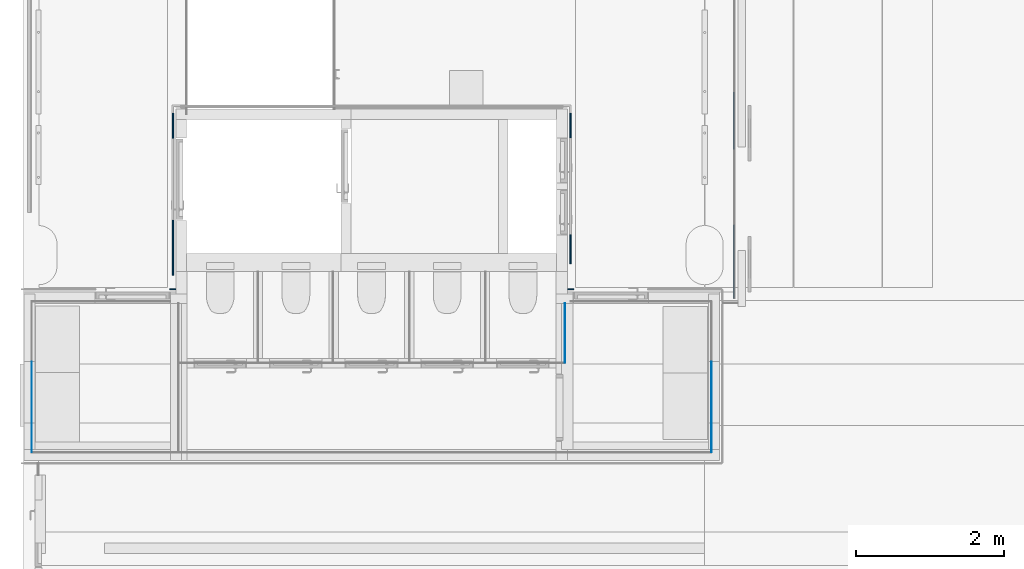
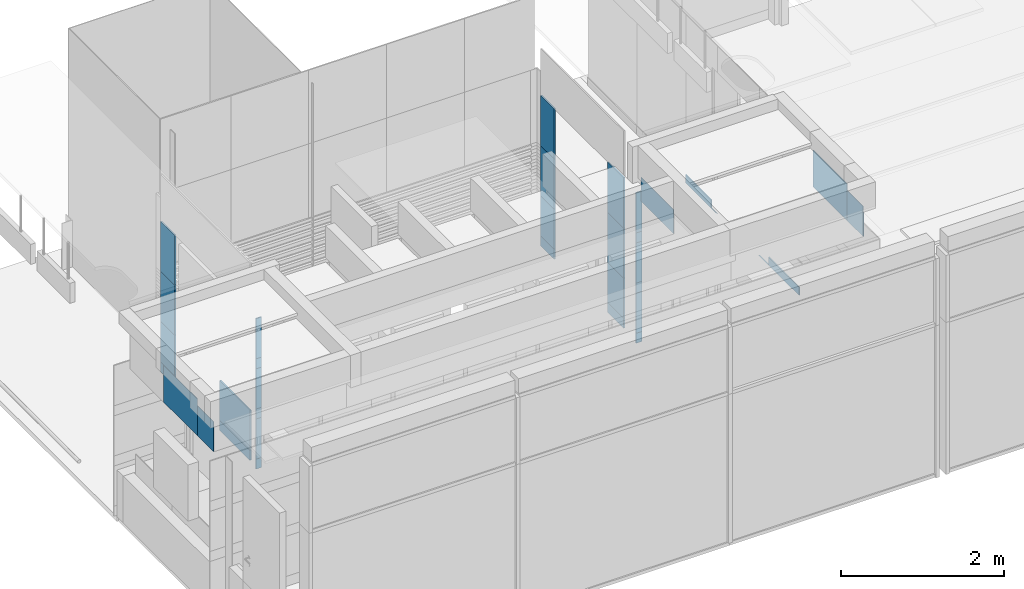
# One storey, part 13 of 26: 33 plates, 10 elements without a shape of their own.
"""IFC2X3 building model written with IfcOpenShell, lengths in millimetres."""

from ifc_helpers import new_model, entity, si_unit, converted_unit, derived_unit, direction, frame, frame_2d, origin, origin_with_axes, origin_2d_with_axis, place, context, subcontext, project, spatial, polyline, rectangle, outline, extrude, source, transform, mapped, material, type_object, element, aggregate, save


model = new_model("IFC2X3")

# Units and contexts
model_context = context("Model", 3, precision=0.01, world=frame((0.0, 4.29681676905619e-09, 0.0)), true_north=direction((4.01073788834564e-13, 1.0)))
plan_context = context("Plan", 3, precision=0.01, world=frame((0.0, 4.29681676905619e-09, 0.0)), true_north=direction((4.01073788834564e-13, 1.0)))
body_context = subcontext(model_context, "Body", "Model", "MODEL_VIEW")
ifc_project = project(units=[converted_unit("PLANEANGLEUNIT", "DEGREE", entity("IfcPositiveLengthMeasure", 0.0174532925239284), si_unit("PLANEANGLEUNIT", "RADIAN"), dimensions=[0, 0, 0, 0, 0, 0, 0]), si_unit("AREAUNIT", "SQUARE_METRE"), si_unit("LENGTHUNIT", "METRE", prefix="MILLI"), si_unit("MASSUNIT", "GRAM", prefix="KILO"), si_unit("POWERUNIT", "WATT"), si_unit("PRESSUREUNIT", "PASCAL", prefix="KILO"), si_unit("FORCEUNIT", "NEWTON", prefix="KILO"), si_unit("ELECTRICVOLTAGEUNIT", "VOLT"), si_unit("ELECTRICCURRENTUNIT", "AMPERE"), si_unit("THERMODYNAMICTEMPERATUREUNIT", "DEGREE_CELSIUS"), si_unit("TIMEUNIT", "SECOND"), si_unit("VOLUMEUNIT", "CUBIC_METRE"), derived_unit("LINEARVELOCITYUNIT", [(si_unit("LENGTHUNIT", "METRE"), 1), (si_unit("TIMEUNIT", "SECOND"), -1)]), derived_unit("VOLUMETRICFLOWRATEUNIT", [(si_unit("VOLUMEUNIT", "CUBIC_METRE"), 1), (si_unit("TIMEUNIT", "SECOND"), -1)]), derived_unit("THERMALTRANSMITTANCEUNIT", [(si_unit("POWERUNIT", "WATT"), 1), (si_unit("THERMODYNAMICTEMPERATUREUNIT", "KELVIN"), -1), (si_unit("AREAUNIT", "SQUARE_METRE"), -1)]), derived_unit("SOUNDPRESSUREUNIT", [(si_unit("PRESSUREUNIT", "PASCAL"), 1)])], contexts=[model_context, plan_context])

# Site, building, storey
site_placement = place(None, origin_with_axes())
site = spatial("IfcSite", under=ifc_project, at=site_placement, Name="ENGM", CompositionType="ELEMENT")
building_placement = place(site_placement, origin_with_axes())
building = spatial("IfcBuilding", under=site, at=building_placement, Name="TG", CompositionType="ELEMENT")
storey_placement = place(building_placement, frame((0.0, 0.0, 210200.0), z_axis=(0.0, 0.0, 1.0), x_axis=(1.0, 0.0, 0.0)))
storey = spatial("IfcBuildingStorey", under=building, at=storey_placement, Name="Nivå F - 0,7 m", CompositionType="ELEMENT", Elevation=210200.0)

# Curtain wall, plates
curtain_wall_type_1 = type_object("IfcCurtainWallType", Name="Curtain Wall:A245 - BIM av T1 - IMK 20mm - Offset 30mm", PredefinedType="NOTDEFINED")
curtain_wall_1_placement = place(storey_placement, frame((0.0, 0.0, -210200.0), z_axis=(0.0, 0.0, 1.0), x_axis=(1.0, 0.0, 0.0)))
curtain_wall_1 = element("IfcCurtainWall", 1, at=curtain_wall_1_placement, inside=storey, type_object=curtain_wall_type_1, Name="Curtain Wall:A245 - BIM av T1 - IMK 20mm - Offset 30mm", ObjectType="Curtain Wall:A245 - BIM av T1 - IMK 20mm - Offset 30mm")
ifc_material_1 = material(Name="Metal - Steel")
plate_type_1 = type_object("IfcPlateType", Name="System Panel:A245 - Metallkasett Inv.20mm - Offset 30mm", PredefinedType="CURTAIN_PANEL", material=ifc_material_1)
shared_shape_1 = source(origin(), body_context, "Body", "SweptSolid", [
    extrude(rectangle(XDim=20.0, YDim=389.600000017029, at=frame_2d((-1.77635683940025e-15, 0.0), x_axis=(1.0, 0.0))), frame((0.0, -40.0, 0.0), z_axis=(0.0, 0.0, 1.0), x_axis=(0.0, 1.0, 0.0)), (0.0, 0.0, 1.0), 150.000000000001),
])
plate_1_placement = place(curtain_wall_1_placement, frame((329145.000000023, 462779.799999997, 210200.0), z_axis=(0.0, 0.0, 1.0), x_axis=(0.0, 1.0, 0.0)))
plate_1 = element("IfcPlate", 2, at=plate_1_placement, type_object=plate_type_1, material=ifc_material_1, Name="System Panel:A245 - Metallkasett Inv.20mm - Offset 30mm", ObjectType="System Panel:A245 - Metallkasett Inv.20mm - Offset 30mm", context=body_context, shape_type="MappedRepresentation", body=[
    mapped(shared_shape_1, transform((0.0, 0.0, 0.0), scale=1.0)),
])
plate_type_2 = type_object("IfcPlateType", Name="System Panel:A245 - Metallkasett Inv.20mm - Offset 30mm", PredefinedType="CURTAIN_PANEL", material=ifc_material_1)
shared_shape_2 = source(origin(), body_context, "Body", "SweptSolid", [
    extrude(rectangle(XDim=20.0, YDim=332.672716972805, at=frame_2d((3.5527136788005e-15, 0.0), x_axis=(1.0, 0.0))), frame((0.0, -40.0, 0.0), z_axis=(0.0, 0.0, 1.0), x_axis=(0.0, 1.0, 0.0)), (0.0, 0.0, 1.0), 150.000000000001),
])
plate_2_placement = place(curtain_wall_1_placement, frame((329145.000000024, 464450.93635849, 210200.0), z_axis=(0.0, 0.0, 1.0), x_axis=(0.0, 1.0, 0.0)))
plate_2 = element("IfcPlate", 3, at=plate_2_placement, type_object=plate_type_2, material=ifc_material_1, Name="System Panel:A245 - Metallkasett Inv.20mm - Offset 30mm", ObjectType="System Panel:A245 - Metallkasett Inv.20mm - Offset 30mm", context=body_context, shape_type="MappedRepresentation", body=[
    mapped(shared_shape_2, transform((0.0, 0.0, 0.0), scale=1.0)),
])
ifc_material_2 = material(Name="Metal - Preget plate")
plate_type_3 = type_object("IfcPlateType", Name="System Panel:U245 - Metallkasett Inv. - 20 mm - Offset 30 mm", PredefinedType="CURTAIN_PANEL", material=ifc_material_2)
shared_shape_3 = source(origin(), body_context, "Body", "SweptSolid", [
    extrude(rectangle(XDim=20.0, YDim=389.600000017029, at=frame_2d((-1.77635683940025e-15, 0.0), x_axis=(1.0, 0.0))), frame((0.0, -40.0, 0.0), z_axis=(0.0, 0.0, 1.0), x_axis=(0.0, 1.0, 0.0)), (0.0, 0.0, 1.0), 600.000000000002),
])
plate_3_placement = place(curtain_wall_1_placement, frame((329145.000000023, 462779.799999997, 210350.0), z_axis=(0.0, 0.0, 1.0), x_axis=(0.0, 1.0, 0.0)))
plate_3 = element("IfcPlate", 4, at=plate_3_placement, type_object=plate_type_3, material=ifc_material_2, Name="System Panel:U245 - Metallkasett Inv. - 20 mm - Offset 30 mm", ObjectType="System Panel:U245 - Metallkasett Inv. - 20 mm - Offset 30 mm", context=body_context, shape_type="MappedRepresentation", body=[
    mapped(shared_shape_3, transform((0.0, 0.0, 0.0), scale=1.0)),
])
plate_type_4 = type_object("IfcPlateType", Name="System Panel:U245 - Metallkasett Inv. - 20 mm - Offset 30 mm", PredefinedType="CURTAIN_PANEL", material=ifc_material_2)
shared_shape_4 = source(origin(), body_context, "Body", "SweptSolid", [
    extrude(rectangle(XDim=20.0, YDim=332.672716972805, at=frame_2d((3.5527136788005e-15, 0.0), x_axis=(1.0, 0.0))), frame((0.0, -40.0, 0.0), z_axis=(0.0, 0.0, 1.0), x_axis=(0.0, 1.0, 0.0)), (0.0, 0.0, 1.0), 600.000000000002),
])
plate_4_placement = place(curtain_wall_1_placement, frame((329145.000000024, 464450.93635849, 210350.0), z_axis=(0.0, 0.0, 1.0), x_axis=(0.0, 1.0, 0.0)))
plate_4 = element("IfcPlate", 5, at=plate_4_placement, type_object=plate_type_4, material=ifc_material_2, Name="System Panel:U245 - Metallkasett Inv. - 20 mm - Offset 30 mm", ObjectType="System Panel:U245 - Metallkasett Inv. - 20 mm - Offset 30 mm", context=body_context, shape_type="MappedRepresentation", body=[
    mapped(shared_shape_4, transform((0.0, 0.0, 0.0), scale=1.0)),
])
plate_type_5 = type_object("IfcPlateType", Name="System Panel:U245 - Metallkasett Inv. - 20 mm - Offset 30 mm", PredefinedType="CURTAIN_PANEL", material=ifc_material_2)
shared_shape_5 = source(origin(), body_context, "Body", "SweptSolid", [
    extrude(rectangle(XDim=20.0, YDim=389.600000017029, at=frame_2d((-1.77635683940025e-15, 0.0), x_axis=(1.0, 0.0))), frame((0.0, -40.0, 0.0), z_axis=(0.0, 0.0, 1.0), x_axis=(0.0, 1.0, 0.0)), (0.0, 0.0, 1.0), 750.000000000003),
])
plate_5_placement = place(curtain_wall_1_placement, frame((329145.000000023, 462779.799999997, 210950.0), z_axis=(0.0, 0.0, 1.0), x_axis=(0.0, 1.0, 0.0)))
plate_5 = element("IfcPlate", 6, at=plate_5_placement, type_object=plate_type_5, material=ifc_material_2, Name="System Panel:U245 - Metallkasett Inv. - 20 mm - Offset 30 mm", ObjectType="System Panel:U245 - Metallkasett Inv. - 20 mm - Offset 30 mm", context=body_context, shape_type="MappedRepresentation", body=[
    mapped(shared_shape_5, transform((0.0, 0.0, 0.0), scale=1.0)),
])
plate_6_placement = place(curtain_wall_1_placement, frame((329145.000000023, 462779.799999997, 211700.0), z_axis=(0.0, 0.0, 1.0), x_axis=(0.0, 1.0, 0.0)))
plate_6 = element("IfcPlate", 7, at=plate_6_placement, type_object=plate_type_5, material=ifc_material_2, Name="System Panel:U245 - Metallkasett Inv. - 20 mm - Offset 30 mm", ObjectType="System Panel:U245 - Metallkasett Inv. - 20 mm - Offset 30 mm", context=body_context, shape_type="MappedRepresentation", body=[
    mapped(shared_shape_5, transform((0.0, 0.0, 0.0), scale=1.0)),
])
plate_type_6 = type_object("IfcPlateType", Name="System Panel:U245 - Metallkasett Inv. - 20 mm - Offset 30 mm", PredefinedType="CURTAIN_PANEL", material=ifc_material_2)
shared_shape_6 = source(origin(), body_context, "Body", "SweptSolid", [
    extrude(rectangle(XDim=20.0, YDim=332.672716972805, at=frame_2d((3.5527136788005e-15, 0.0), x_axis=(1.0, 0.0))), frame((0.0, -40.0, 0.0), z_axis=(0.0, 0.0, 1.0), x_axis=(0.0, 1.0, 0.0)), (0.0, 0.0, 1.0), 750.000000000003),
])
plate_7_placement = place(curtain_wall_1_placement, frame((329145.000000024, 464450.93635849, 210950.0), z_axis=(0.0, 0.0, 1.0), x_axis=(0.0, 1.0, 0.0)))
plate_7 = element("IfcPlate", 8, at=plate_7_placement, type_object=plate_type_6, material=ifc_material_2, Name="System Panel:U245 - Metallkasett Inv. - 20 mm - Offset 30 mm", ObjectType="System Panel:U245 - Metallkasett Inv. - 20 mm - Offset 30 mm", context=body_context, shape_type="MappedRepresentation", body=[
    mapped(shared_shape_6, transform((0.0, 0.0, 0.0), scale=1.0)),
])
plate_8_placement = place(curtain_wall_1_placement, frame((329145.000000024, 464450.93635849, 211700.0), z_axis=(0.0, 0.0, 1.0), x_axis=(0.0, 1.0, 0.0)))
plate_8 = element("IfcPlate", 9, at=plate_8_placement, type_object=plate_type_6, material=ifc_material_2, Name="System Panel:U245 - Metallkasett Inv. - 20 mm - Offset 30 mm", ObjectType="System Panel:U245 - Metallkasett Inv. - 20 mm - Offset 30 mm", context=body_context, shape_type="MappedRepresentation", body=[
    mapped(shared_shape_6, transform((0.0, 0.0, 0.0), scale=1.0)),
])
aggregate(curtain_wall_1, [plate_1, plate_2, plate_3, plate_4, plate_5, plate_7, plate_6, plate_8])

curtain_wall_2_placement = place(storey_placement, frame((0.0, 0.0, -210200.0), z_axis=(0.0, 0.0, 1.0), x_axis=(1.0, 0.0, 0.0)))
curtain_wall_2 = element("IfcCurtainWall", 10, at=curtain_wall_2_placement, inside=storey, type_object=curtain_wall_type_1, Name="Curtain Wall:A245 - BIM av T1 - IMK 20mm - Offset 30mm", ObjectType="Curtain Wall:A245 - BIM av T1 - IMK 20mm - Offset 30mm")
plate_type_7 = type_object("IfcPlateType", Name="System Panel:A245 - Metallkasett Inv.20mm - Offset 30mm", PredefinedType="CURTAIN_PANEL", material=ifc_material_1)
shared_shape_7 = source(origin(), body_context, "Body", "SweptSolid", [
    extrude(rectangle(XDim=20.0, YDim=337.272716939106, at=frame_2d((-1.77635683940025e-15, 0.0), x_axis=(1.0, 0.0))), frame((0.0, -40.0, 0.0), z_axis=(0.0, 0.0, 1.0), x_axis=(0.0, 1.0, 0.0)), (0.0, 0.0, 1.0), 150.000000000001),
])
plate_9_placement = place(curtain_wall_2_placement, frame((323855.000000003, 464448.636358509, 210200.0), z_axis=(0.0, 0.0, 1.0), x_axis=(0.0, -1.0, 0.0)))
plate_9 = element("IfcPlate", 11, at=plate_9_placement, type_object=plate_type_7, material=ifc_material_1, Name="System Panel:A245 - Metallkasett Inv.20mm - Offset 30mm", ObjectType="System Panel:A245 - Metallkasett Inv.20mm - Offset 30mm", context=body_context, shape_type="MappedRepresentation", body=[
    mapped(shared_shape_7, transform((0.0, 0.0, 0.0), scale=1.0)),
])
plate_type_8 = type_object("IfcPlateType", Name="System Panel:A245 - Metallkasett Inv.20mm - Offset 30mm", PredefinedType="CURTAIN_PANEL", material=ifc_material_1)
shared_shape_8 = source(origin(), body_context, "Body", "SweptSolid", [
    extrude(rectangle(XDim=20.0, YDim=738.937500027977, at=frame_2d((-1.77635683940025e-15, 0.0), x_axis=(1.0, 0.0))), frame((0.0, -40.0, 0.0), z_axis=(0.0, 0.0, 1.0), x_axis=(0.0, 1.0, 0.0)), (0.0, 0.0, 1.0), 150.000000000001),
])
plate_10_placement = place(curtain_wall_2_placement, frame((323855.000000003, 462800.531250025, 210200.0), z_axis=(0.0, 0.0, 1.0), x_axis=(0.0, -1.0, 0.0)))
plate_10 = element("IfcPlate", 12, at=plate_10_placement, type_object=plate_type_8, material=ifc_material_1, Name="System Panel:A245 - Metallkasett Inv.20mm - Offset 30mm", ObjectType="System Panel:A245 - Metallkasett Inv.20mm - Offset 30mm", context=body_context, shape_type="MappedRepresentation", body=[
    mapped(shared_shape_8, transform((0.0, 0.0, 0.0), scale=1.0)),
])
plate_type_9 = type_object("IfcPlateType", Name="System Panel:U245 - Metallkasett Inv. - 20 mm - Offset 30 mm", PredefinedType="CURTAIN_PANEL", material=ifc_material_2)
shared_shape_9 = source(origin(), body_context, "Body", "SweptSolid", [
    extrude(rectangle(XDim=20.0, YDim=337.272716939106, at=frame_2d((-1.77635683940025e-15, 0.0), x_axis=(1.0, 0.0))), frame((0.0, -40.0, 0.0), z_axis=(0.0, 0.0, 1.0), x_axis=(0.0, 1.0, 0.0)), (0.0, 0.0, 1.0), 600.000000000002),
])
plate_11_placement = place(curtain_wall_2_placement, frame((323855.000000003, 464448.636358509, 210350.0), z_axis=(0.0, 0.0, 1.0), x_axis=(0.0, -1.0, 0.0)))
plate_11 = element("IfcPlate", 13, at=plate_11_placement, type_object=plate_type_9, material=ifc_material_2, Name="System Panel:U245 - Metallkasett Inv. - 20 mm - Offset 30 mm", ObjectType="System Panel:U245 - Metallkasett Inv. - 20 mm - Offset 30 mm", context=body_context, shape_type="MappedRepresentation", body=[
    mapped(shared_shape_9, transform((0.0, 0.0, 0.0), scale=1.0)),
])
plate_type_10 = type_object("IfcPlateType", Name="System Panel:U245 - Metallkasett Inv. - 20 mm - Offset 30 mm", PredefinedType="CURTAIN_PANEL", material=ifc_material_2)
shared_shape_10 = source(origin(), body_context, "Body", "SweptSolid", [
    extrude(rectangle(XDim=20.0, YDim=738.937500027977, at=frame_2d((-1.77635683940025e-15, 0.0), x_axis=(1.0, 0.0))), frame((0.0, -40.0, 0.0), z_axis=(0.0, 0.0, 1.0), x_axis=(0.0, 1.0, 0.0)), (0.0, 0.0, 1.0), 600.000000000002),
])
plate_12_placement = place(curtain_wall_2_placement, frame((323855.000000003, 462800.531250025, 210350.0), z_axis=(0.0, 0.0, 1.0), x_axis=(0.0, -1.0, 0.0)))
plate_12 = element("IfcPlate", 14, at=plate_12_placement, type_object=plate_type_10, material=ifc_material_2, Name="System Panel:U245 - Metallkasett Inv. - 20 mm - Offset 30 mm", ObjectType="System Panel:U245 - Metallkasett Inv. - 20 mm - Offset 30 mm", context=body_context, shape_type="MappedRepresentation", body=[
    mapped(shared_shape_10, transform((0.0, 0.0, 0.0), scale=1.0)),
])
plate_type_11 = type_object("IfcPlateType", Name="System Panel:U245 - Metallkasett Inv. - 20 mm - Offset 30 mm", PredefinedType="CURTAIN_PANEL", material=ifc_material_2)
shared_shape_11 = source(origin(), body_context, "Body", "SweptSolid", [
    extrude(rectangle(XDim=20.0, YDim=337.272716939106, at=frame_2d((-1.77635683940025e-15, 0.0), x_axis=(1.0, 0.0))), frame((0.0, -40.0, 0.0), z_axis=(0.0, 0.0, 1.0), x_axis=(0.0, 1.0, 0.0)), (0.0, 0.0, 1.0), 750.000000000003),
])
plate_13_placement = place(curtain_wall_2_placement, frame((323855.000000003, 464448.636358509, 210950.0), z_axis=(0.0, 0.0, 1.0), x_axis=(0.0, -1.0, 0.0)))
plate_13 = element("IfcPlate", 15, at=plate_13_placement, type_object=plate_type_11, material=ifc_material_2, Name="System Panel:U245 - Metallkasett Inv. - 20 mm - Offset 30 mm", ObjectType="System Panel:U245 - Metallkasett Inv. - 20 mm - Offset 30 mm", context=body_context, shape_type="MappedRepresentation", body=[
    mapped(shared_shape_11, transform((0.0, 0.0, 0.0), scale=1.0)),
])
plate_14_placement = place(curtain_wall_2_placement, frame((323855.000000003, 464448.636358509, 211700.0), z_axis=(0.0, 0.0, 1.0), x_axis=(0.0, -1.0, 0.0)))
plate_14 = element("IfcPlate", 16, at=plate_14_placement, type_object=plate_type_11, material=ifc_material_2, Name="System Panel:U245 - Metallkasett Inv. - 20 mm - Offset 30 mm", ObjectType="System Panel:U245 - Metallkasett Inv. - 20 mm - Offset 30 mm", context=body_context, shape_type="MappedRepresentation", body=[
    mapped(shared_shape_11, transform((0.0, 0.0, 0.0), scale=1.0)),
])
aggregate(curtain_wall_2, [plate_9, plate_10, plate_11, plate_12, plate_13, plate_14])

curtain_wall_type_2 = type_object("IfcCurtainWallType", Name="Curtain Wall:A245 - ITK - Trekledning", PredefinedType="NOTDEFINED")
curtain_wall_3_placement = place(storey_placement, frame((0.0, 0.0, -210200.0), z_axis=(0.0, 0.0, 1.0), x_axis=(1.0, 0.0, 0.0)))
curtain_wall_3 = element("IfcCurtainWall", 17, at=curtain_wall_3_placement, inside=storey, type_object=curtain_wall_type_2, Name="Curtain Wall:A245 - ITK - Trekledning", ObjectType="Curtain Wall:A245 - ITK - Trekledning")
ifc_material_3 = material(Name="Wood - Timber")
plate_type_12 = type_object("IfcPlateType", Name="System Panel:A245 - KL-T03 - Trekledning 14mm", PredefinedType="CURTAIN_PANEL", material=ifc_material_3)
shared_shape_12 = source(origin(), body_context, "Body", "SweptSolid", [
    extrude(rectangle(XDim=14.0, YDim=78.3302215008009, at=origin_2d_with_axis()), frame((0.0, -7.0, 0.0), z_axis=(0.0, 0.0, 1.0), x_axis=(0.0, 1.0, 0.0)), (0.0, 0.0, 1.0), 150.000000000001),
])
plate_15_placement = place(curtain_wall_3_placement, frame((323813.834889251, 462230.600000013, 210200.0), z_axis=(0.0, 0.0, 1.0), x_axis=(-1.0, 0.0, 0.0)))
plate_15 = element("IfcPlate", 18, at=plate_15_placement, type_object=plate_type_12, material=ifc_material_3, Name="System Panel:A245 - KL-T03 - Trekledning 14mm", ObjectType="System Panel:A245 - KL-T03 - Trekledning 14mm", context=body_context, shape_type="MappedRepresentation", body=[
    mapped(shared_shape_12, transform((0.0, 0.0, 0.0), scale=1.0)),
])
plate_16_placement = place(curtain_wall_3_placement, frame((323813.834889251, 462230.600000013, 210950.0), z_axis=(0.0, 0.0, 1.0), x_axis=(-1.0, 0.0, 0.0)))
plate_16 = element("IfcPlate", 19, at=plate_16_placement, type_object=plate_type_12, material=ifc_material_3, Name="System Panel:A245 - KL-T03 - Trekledning 14mm", ObjectType="System Panel:A245 - KL-T03 - Trekledning 14mm", context=body_context, shape_type="MappedRepresentation", body=[
    mapped(shared_shape_12, transform((0.0, 0.0, 0.0), scale=1.0)),
])
plate_17_placement = place(curtain_wall_3_placement, frame((323813.834889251, 462230.600000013, 211700.0), z_axis=(0.0, 0.0, 1.0), x_axis=(-1.0, 0.0, 0.0)))
plate_17 = element("IfcPlate", 20, at=plate_17_placement, type_object=plate_type_12, material=ifc_material_3, Name="System Panel:A245 - KL-T03 - Trekledning 14mm", ObjectType="System Panel:A245 - KL-T03 - Trekledning 14mm", context=body_context, shape_type="MappedRepresentation", body=[
    mapped(shared_shape_12, transform((0.0, 0.0, 0.0), scale=1.0)),
])
plate_type_13 = type_object("IfcPlateType", Name="System Panel:A245 - KL-T03 - Trekledning 14mm", PredefinedType="CURTAIN_PANEL", material=ifc_material_3)
shared_shape_13 = source(origin(), body_context, "Body", "SweptSolid", [
    extrude(rectangle(XDim=14.0, YDim=78.3302215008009, at=origin_2d_with_axis()), frame((0.0, -7.0, 0.0), z_axis=(0.0, 0.0, 1.0), x_axis=(0.0, 1.0, 0.0)), (0.0, 0.0, 1.0), 600.000000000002),
])
plate_18_placement = place(curtain_wall_3_placement, frame((323813.834889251, 462230.600000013, 210350.0), z_axis=(0.0, 0.0, 1.0), x_axis=(-1.0, 0.0, 0.0)))
plate_18 = element("IfcPlate", 21, at=plate_18_placement, type_object=plate_type_13, material=ifc_material_3, Name="System Panel:A245 - KL-T03 - Trekledning 14mm", ObjectType="System Panel:A245 - KL-T03 - Trekledning 14mm", context=body_context, shape_type="MappedRepresentation", body=[
    mapped(shared_shape_13, transform((0.0, 0.0, 0.0), scale=1.0)),
])
plate_19_placement = place(curtain_wall_3_placement, frame((323813.834889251, 462230.600000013, 211100.0), z_axis=(0.0, 0.0, 1.0), x_axis=(-1.0, 0.0, 0.0)))
plate_19 = element("IfcPlate", 22, at=plate_19_placement, type_object=plate_type_13, material=ifc_material_3, Name="System Panel:A245 - KL-T03 - Trekledning 14mm", ObjectType="System Panel:A245 - KL-T03 - Trekledning 14mm", context=body_context, shape_type="MappedRepresentation", body=[
    mapped(shared_shape_13, transform((0.0, 0.0, 0.0), scale=1.0)),
])
plate_20_placement = place(curtain_wall_3_placement, frame((323813.834889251, 462230.600000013, 211850.0), z_axis=(0.0, 0.0, 1.0), x_axis=(-1.0, 0.0, 0.0)))
plate_20 = element("IfcPlate", 23, at=plate_20_placement, type_object=plate_type_13, material=ifc_material_3, Name="System Panel:A245 - KL-T03 - Trekledning 14mm", ObjectType="System Panel:A245 - KL-T03 - Trekledning 14mm", context=body_context, shape_type="MappedRepresentation", body=[
    mapped(shared_shape_13, transform((0.0, 0.0, 0.0), scale=1.0)),
])
aggregate(curtain_wall_3, [plate_15, plate_18, plate_16, plate_19, plate_17, plate_20])

curtain_wall_4_placement = place(storey_placement, frame((0.0, 0.0, -210200.0), z_axis=(0.0, 0.0, 1.0), x_axis=(1.0, 0.0, 0.0)))
curtain_wall_4 = element("IfcCurtainWall", 24, at=curtain_wall_4_placement, inside=storey, type_object=curtain_wall_type_2, Name="Curtain Wall:A245 - ITK - Trekledning", ObjectType="Curtain Wall:A245 - ITK - Trekledning")
plate_type_14 = type_object("IfcPlateType", Name="System Panel:A245 - KL-T03 - Trekledning 14mm", PredefinedType="CURTAIN_PANEL", material=ifc_material_3)
shared_shape_14 = source(origin(), body_context, "Body", "SweptSolid", [
    extrude(rectangle(XDim=14.0, YDim=81.9999999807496, at=origin_2d_with_axis()), frame((0.0, 7.0, 0.0), z_axis=(0.0, 0.0, 1.0), x_axis=(0.0, 1.0, 0.0)), (0.0, 0.0, 1.0), 150.000000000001),
])
plate_21_placement = place(curtain_wall_4_placement, frame((329187.999999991, 462230.600000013, 210200.0), z_axis=(0.0, 0.0, 1.0), x_axis=(1.0, 0.0, 0.0)))
plate_21 = element("IfcPlate", 25, at=plate_21_placement, type_object=plate_type_14, material=ifc_material_3, Name="System Panel:A245 - KL-T03 - Trekledning 14mm", ObjectType="System Panel:A245 - KL-T03 - Trekledning 14mm", context=body_context, shape_type="MappedRepresentation", body=[
    mapped(shared_shape_14, transform((0.0, 0.0, 0.0), scale=1.0)),
])
plate_22_placement = place(curtain_wall_4_placement, frame((329187.999999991, 462230.600000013, 210950.0), z_axis=(0.0, 0.0, 1.0), x_axis=(1.0, 0.0, 0.0)))
plate_22 = element("IfcPlate", 26, at=plate_22_placement, type_object=plate_type_14, material=ifc_material_3, Name="System Panel:A245 - KL-T03 - Trekledning 14mm", ObjectType="System Panel:A245 - KL-T03 - Trekledning 14mm", context=body_context, shape_type="MappedRepresentation", body=[
    mapped(shared_shape_14, transform((0.0, 0.0, 0.0), scale=1.0)),
])
plate_23_placement = place(curtain_wall_4_placement, frame((329187.999999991, 462230.600000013, 211700.0), z_axis=(0.0, 0.0, 1.0), x_axis=(1.0, 0.0, 0.0)))
plate_23 = element("IfcPlate", 27, at=plate_23_placement, type_object=plate_type_14, material=ifc_material_3, Name="System Panel:A245 - KL-T03 - Trekledning 14mm", ObjectType="System Panel:A245 - KL-T03 - Trekledning 14mm", context=body_context, shape_type="MappedRepresentation", body=[
    mapped(shared_shape_14, transform((0.0, 0.0, 0.0), scale=1.0)),
])
plate_type_15 = type_object("IfcPlateType", Name="System Panel:A245 - KL-T03 - Trekledning 14mm", PredefinedType="CURTAIN_PANEL", material=ifc_material_3)
shared_shape_15 = source(origin(), body_context, "Body", "SweptSolid", [
    extrude(rectangle(XDim=14.0, YDim=81.9999999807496, at=origin_2d_with_axis()), frame((0.0, 7.0, 0.0), z_axis=(0.0, 0.0, 1.0), x_axis=(0.0, 1.0, 0.0)), (0.0, 0.0, 1.0), 600.000000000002),
])
plate_24_placement = place(curtain_wall_4_placement, frame((329187.999999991, 462230.600000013, 210350.0), z_axis=(0.0, 0.0, 1.0), x_axis=(1.0, 0.0, 0.0)))
plate_24 = element("IfcPlate", 28, at=plate_24_placement, type_object=plate_type_15, material=ifc_material_3, Name="System Panel:A245 - KL-T03 - Trekledning 14mm", ObjectType="System Panel:A245 - KL-T03 - Trekledning 14mm", context=body_context, shape_type="MappedRepresentation", body=[
    mapped(shared_shape_15, transform((0.0, 0.0, 0.0), scale=1.0)),
])
plate_25_placement = place(curtain_wall_4_placement, frame((329187.999999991, 462230.600000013, 211100.0), z_axis=(0.0, 0.0, 1.0), x_axis=(1.0, 0.0, 0.0)))
plate_25 = element("IfcPlate", 29, at=plate_25_placement, type_object=plate_type_15, material=ifc_material_3, Name="System Panel:A245 - KL-T03 - Trekledning 14mm", ObjectType="System Panel:A245 - KL-T03 - Trekledning 14mm", context=body_context, shape_type="MappedRepresentation", body=[
    mapped(shared_shape_15, transform((0.0, 0.0, 0.0), scale=1.0)),
])
plate_26_placement = place(curtain_wall_4_placement, frame((329187.999999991, 462230.600000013, 211850.0), z_axis=(0.0, 0.0, 1.0), x_axis=(1.0, 0.0, 0.0)))
plate_26 = element("IfcPlate", 30, at=plate_26_placement, type_object=plate_type_15, material=ifc_material_3, Name="System Panel:A245 - KL-T03 - Trekledning 14mm", ObjectType="System Panel:A245 - KL-T03 - Trekledning 14mm", context=body_context, shape_type="MappedRepresentation", body=[
    mapped(shared_shape_15, transform((0.0, 0.0, 0.0), scale=1.0)),
])
aggregate(curtain_wall_4, [plate_21, plate_24, plate_22, plate_25, plate_23, plate_26])

# Curtain wall, plate
curtain_wall_type_3 = type_object("IfcCurtainWallType", Name="Curtain Wall:A242 - IGV - Glass - 6 mm", PredefinedType="NOTDEFINED")
curtain_wall_5_placement = place(storey_placement, frame((0.0, 0.0, -210200.0), z_axis=(0.0, 0.0, 1.0), x_axis=(1.0, 0.0, 0.0)))
curtain_wall_5 = element("IfcCurtainWall", 31, at=curtain_wall_5_placement, inside=storey, type_object=curtain_wall_type_3, Name="Curtain Wall:A242 - IGV - Glass - 6 mm", ObjectType="Curtain Wall:A242 - IGV - Glass - 6 mm")
ifc_material_4 = material(Name="Glass (Avinor)")
plate_type_16 = type_object("IfcPlateType", Name="System Panel:A245 - Glass - 6 mm", PredefinedType="CURTAIN_PANEL", material=ifc_material_4)
shared_shape_16 = source(origin(), body_context, "Body", "SweptSolid", [
    extrude(rectangle(XDim=6.0, YDim=804.137499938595, at=origin_2d_with_axis()), frame((0.0, 3.0, 0.0), z_axis=(0.0, 0.0, 1.0), x_axis=(0.0, 1.0, 0.0)), (0.0, 0.0, 1.0), 359.999999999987),
])
plate_27_placement = place(curtain_wall_5_placement, frame((329108.99999998, 461646.531249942, 212450.0), z_axis=(0.0, 0.0, 1.0), x_axis=(0.0, -1.0, 0.0)))
plate_27 = element("IfcPlate", 32, at=plate_27_placement, type_object=plate_type_16, material=ifc_material_4, Name="System Panel:A245 - Glass - 6 mm", ObjectType="System Panel:A245 - Glass - 6 mm", context=body_context, shape_type="MappedRepresentation", body=[
    mapped(shared_shape_16, transform((0.0, 0.0, 0.0), scale=1.0)),
])
aggregate(curtain_wall_5, [plate_27])

curtain_wall_6_placement = place(storey_placement, frame((0.0, 0.0, -210200.0), z_axis=(0.0, 0.0, 1.0), x_axis=(1.0, 0.0, 0.0)))
curtain_wall_6 = element("IfcCurtainWall", 33, at=curtain_wall_6_placement, inside=storey, type_object=curtain_wall_type_3, Name="Curtain Wall:A242 - IGV - Glass - 6 mm", ObjectType="Curtain Wall:A242 - IGV - Glass - 6 mm")
plate_type_17 = type_object("IfcPlateType", Name="System Panel:A245 - Glass - 6 mm", PredefinedType="CURTAIN_PANEL", material=ifc_material_4)
shared_shape_17 = source(origin(), body_context, "Body", "SweptSolid", [
    extrude(rectangle(XDim=6.0, YDim=829.999999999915, at=origin_2d_with_axis()), frame((0.0, 3.0, 0.0), z_axis=(0.0, 0.0, 1.0), x_axis=(0.0, 1.0, 0.0)), (0.0, 0.0, 1.0), 549.999999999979),
])
plate_28_placement = place(curtain_wall_6_placement, frame((321911.999999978, 460844.999999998, 212450.0), z_axis=(0.0, 0.0, 1.0), x_axis=(0.0, 1.0, 0.0)))
plate_28 = element("IfcPlate", 34, at=plate_28_placement, type_object=plate_type_17, material=ifc_material_4, Name="System Panel:A245 - Glass - 6 mm", ObjectType="System Panel:A245 - Glass - 6 mm", context=body_context, shape_type="MappedRepresentation", body=[
    mapped(shared_shape_17, transform((0.0, 0.0, 0.0), scale=1.0)),
])
aggregate(curtain_wall_6, [plate_28])

curtain_wall_7_placement = place(storey_placement, frame((0.0, 0.0, -210200.0), z_axis=(0.0, 0.0, 1.0), x_axis=(1.0, 0.0, 0.0)))
curtain_wall_7 = element("IfcCurtainWall", 35, at=curtain_wall_7_placement, inside=storey, type_object=curtain_wall_type_3, Name="Curtain Wall:A242 - IGV - Glass - 6 mm", ObjectType="Curtain Wall:A242 - IGV - Glass - 6 mm")
plate_29_placement = place(curtain_wall_7_placement, frame((331087.999999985, 460844.999999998, 212450.0), z_axis=(0.0, 0.0, 1.0), x_axis=(0.0, -1.0, 0.0)))
plate_29 = element("IfcPlate", 36, at=plate_29_placement, type_object=plate_type_17, material=ifc_material_4, Name="System Panel:A245 - Glass - 6 mm", ObjectType="System Panel:A245 - Glass - 6 mm", context=body_context, shape_type="MappedRepresentation", body=[
    mapped(shared_shape_17, transform((0.0, 0.0, 0.0), scale=1.0)),
])
aggregate(curtain_wall_7, [plate_29])

curtain_wall_8_placement = place(storey_placement, frame((0.0, 0.0, -210200.0), z_axis=(0.0, 0.0, 1.0), x_axis=(1.0, 0.0, 0.0)))
curtain_wall_8 = element("IfcCurtainWall", 37, at=curtain_wall_8_placement, inside=storey, type_object=curtain_wall_type_3, Name="Curtain Wall:A242 - IGV - Glass - 6 mm", ObjectType="Curtain Wall:A242 - IGV - Glass - 6 mm")
plate_type_18 = type_object("IfcPlateType", Name="System Panel:A245 - Glass - 6 mm", PredefinedType="CURTAIN_PANEL", material=ifc_material_4)
shared_shape_18 = source(origin(), body_context, "Body", "SweptSolid", [
    extrude(rectangle(XDim=6.0, YDim=394.399999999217, at=origin_2d_with_axis()), frame((0.0, 3.0, 0.0), z_axis=(0.0, 0.0, 1.0), x_axis=(0.0, 1.0, 0.0)), (0.0, 0.0, 1.0), 450.000000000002),
])
plate_30_placement = place(curtain_wall_8_placement, frame((321911.999999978, 460232.799999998, 212450.0), z_axis=(0.0, 0.0, 1.0), x_axis=(0.0, 1.0, 0.0)))
plate_30 = element("IfcPlate", 38, at=plate_30_placement, type_object=plate_type_18, material=ifc_material_4, Name="System Panel:A245 - Glass - 6 mm", ObjectType="System Panel:A245 - Glass - 6 mm", context=body_context, shape_type="MappedRepresentation", body=[
    mapped(shared_shape_18, transform((0.0, 0.0, 0.0), scale=1.0)),
])
aggregate(curtain_wall_8, [plate_30])

curtain_wall_9_placement = place(storey_placement, frame((0.0, 0.0, -210200.0), z_axis=(0.0, 0.0, 1.0), x_axis=(1.0, 0.0, 0.0)))
curtain_wall_9 = element("IfcCurtainWall", 39, at=curtain_wall_9_placement, inside=storey, type_object=curtain_wall_type_3, Name="Curtain Wall:A242 - IGV - Glass - 6 mm", ObjectType="Curtain Wall:A242 - IGV - Glass - 6 mm")
plate_31_placement = place(curtain_wall_9_placement, frame((331087.999999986, 460232.799999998, 212450.0), z_axis=(0.0, 0.0, 1.0), x_axis=(0.0, -1.0, 0.0)))
plate_31 = element("IfcPlate", 40, at=plate_31_placement, type_object=plate_type_18, material=ifc_material_4, Name="System Panel:A245 - Glass - 6 mm", ObjectType="System Panel:A245 - Glass - 6 mm", context=body_context, shape_type="MappedRepresentation", body=[
    mapped(shared_shape_18, transform((0.0, 0.0, 0.0), scale=1.0)),
])
aggregate(curtain_wall_9, [plate_31])

# Curtain wall, plates
curtain_wall_type_4 = type_object("IfcCurtainWallType", Name="Curtain Wall:A242 - IGV - Glass - 10 mm", PredefinedType="NOTDEFINED")
curtain_wall_10_placement = place(storey_placement, frame((0.0, 0.0, -210200.0), z_axis=(0.0, 0.0, 1.0), x_axis=(1.0, 0.0, 0.0)))
curtain_wall_10 = element("IfcCurtainWall", 41, at=curtain_wall_10_placement, inside=storey, type_object=curtain_wall_type_4, Name="Curtain Wall:A242 - IGV - Glass - 10 mm", ObjectType="Curtain Wall:A242 - IGV - Glass - 10 mm")
ifc_material_5 = material(Name="Metal - Panel")
plate_type_19 = type_object("IfcPlateType", Name="System Panel:A245 - KL-M06 - Veggkledning metallplate fendring", PredefinedType="CURTAIN_PANEL", material=ifc_material_5)
shared_shape_19 = source(origin(), body_context, "Body", "SweptSolid", [
    extrude(outline(polyline([(-48.1236907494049, -408.124999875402), (71.8763092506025, -408.124999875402), (71.8763092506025, 225.416666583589), (-47.5052370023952, 225.416666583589), (-48.1236907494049, 365.416666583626), (-48.1236907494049, -408.124999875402)])), frame((21.3541666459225, -12.0, 48.1236907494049), z_axis=(0.0, 1.0, 0.0), x_axis=(0.0, 0.0, 1.0)), (0.0, 0.0, 1.0), 15.0),
])
plate_32_placement = place(curtain_wall_10_placement, frame((331398.69226286, 464516.729166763, 210200.0), z_axis=(0.0, 0.0, 1.0), x_axis=(0.0, -1.0, 0.0)))
plate_32 = element("IfcPlate", 42, at=plate_32_placement, type_object=plate_type_19, material=ifc_material_5, Name="System Panel:A245 - KL-M06 - Veggkledning metallplate fendring", ObjectType="System Panel:A245 - KL-M06 - Veggkledning metallplate fendring", context=body_context, shape_type="MappedRepresentation", body=[
    mapped(shared_shape_19, transform((0.0, 0.0, 0.0), scale=1.0)),
])
plate_type_20 = type_object("IfcPlateType", Name="System Panel:A245 - KL-M06 - Veggkledning metallplate fendring", PredefinedType="CURTAIN_PANEL", material=ifc_material_5)
shared_shape_20 = source(origin(), body_context, "Body", "SweptSolid", [
    extrude(outline(polyline([(-492.105709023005, -46.8557479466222), (497.84933768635, -49.4067538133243), (498.15856353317, 70.5928477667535), (-251.797280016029, 72.5254019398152), (-252.104912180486, -46.8557479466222), (-492.105709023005, -46.8557479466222)])), frame((-2.99583335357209, -12.0, 48.1236907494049), z_axis=(0.0, -1.0, 0.0), x_axis=(0.999996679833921, 0.0, 0.00257688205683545)), (0.0, 0.0, -1.0), 15.0),
])
plate_33_placement = place(curtain_wall_10_placement, frame((331398.69226286, 462614.979166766, 210200.0), z_axis=(0.0, 0.0, 1.0), x_axis=(0.0, -1.0, 0.0)))
plate_33 = element("IfcPlate", 43, at=plate_33_placement, type_object=plate_type_20, material=ifc_material_5, Name="System Panel:A245 - KL-M06 - Veggkledning metallplate fendring", ObjectType="System Panel:A245 - KL-M06 - Veggkledning metallplate fendring", context=body_context, shape_type="MappedRepresentation", body=[
    mapped(shared_shape_20, transform((0.0, 0.0, 0.0), scale=1.0)),
])
aggregate(curtain_wall_10, [plate_32, plate_33])

save(model, "model.ifc")
